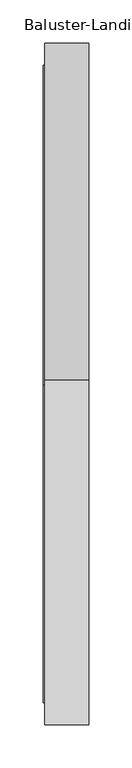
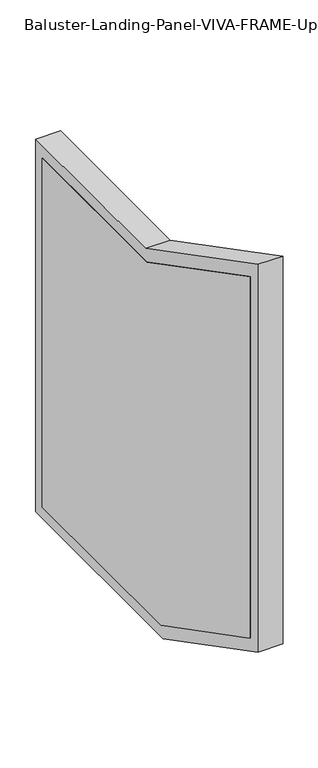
"""IFC4 building model written with IfcOpenShell, lengths in millimetres: railing geometry, Baluster-Landing-Panel-VIVA-FRAME-Upper : Standard_PP01."""

from ifc_helpers import new_model, si_unit, frame, origin, place, context, project, spatial, polyline, outline, extrude, faceted_brep, source, transform, mapped, element, save


def baluster_landing_panel_viva_frame_upper_standard_pp01_6e22e4d4(model_context):
    return source(origin(), model_context, "Body", "SolidModel", [
        extrude(outline(polyline([(-198.3597931, 150.8238514), (-618.4295116, 150.8238514), (-933.9372584, 315.0667886), (-933.9372584, 1093.9289424), (-567.5964726, 903.224), (-198.3597931, 903.224), (-198.3597931, 150.8238514)])), frame((62.2681, 0.0, 0.0), z_axis=(1.0, 0.0, 0.0), x_axis=(0.0, 1.0, 0.0)), (0.0, 0.0, 1.0), 2.9972),
        faceted_brep([(63.7667, -561.3811321, 928.624), (114.5667, -561.3811321, 928.624), (114.5667, -172.9597931, 928.624), (63.7667, -172.9597931, 928.624), (114.5667, -172.9597931, 125.4238514), (63.7667, -172.9597931, 125.4238514), (114.5667, -959.3372584, 1135.7868469), (114.5667, -959.3372584, 299.6536902), (114.5667, -624.6448521, 125.4238514), (114.5667, -953.3428584, 303.2911815), (114.5667, -953.3428584, 1125.9083814), (114.5667, -562.8479524, 922.6296), (114.5667, -178.9541931, 922.6296), (114.5667, -178.9541931, 131.4182514), (114.5667, -623.1780317, 131.4182514), (63.7667, -624.6448521, 125.4238514), (63.7667, -959.3372584, 299.6536902), (63.7667, -959.3372584, 1135.7868469), (63.7667, -223.7597931, 877.824), (63.7667, -573.811813, 877.824), (63.7667, -908.5372584, 1052.0710378), (63.7667, -908.5372584, 330.479887), (63.7667, -612.2141711, 176.2238514), (63.7667, -223.7597931, 176.2238514), (83.7565, -573.811813, 877.824), (83.7565, -223.7597931, 877.824), (83.7565, -223.7597931, 176.2238514), (83.7565, -612.2141711, 176.2238514), (83.7565, -178.9541931, 922.6296), (83.7565, -562.8479524, 922.6296), (83.7565, -953.3428584, 1125.9083814), (83.7565, -953.3428584, 303.2911815), (83.7565, -623.1780317, 131.4182514), (83.7565, -178.9541931, 131.4182514), (83.7565, -908.5372584, 330.479887), (83.7565, -908.5372584, 1052.0710378)], [[[0, 1, 2, 3]], [[3, 2, 4, 5]], [[2, 1, 6, 7, 8, 4], [9, 10, 11, 12, 13, 14]], [[5, 4, 8, 15]], [[16, 17, 0, 3, 5, 15], [18, 19, 20, 21, 22, 23]], [[24, 19, 18, 25]], [[25, 18, 23, 26]], [[26, 23, 22, 27]], [[28, 29, 30, 31, 32, 33], [34, 35, 24, 25, 26, 27]], [[11, 29, 28, 12]], [[12, 28, 33, 13]], [[13, 33, 32, 14]], [[15, 8, 7, 16]], [[27, 22, 21, 34]], [[14, 32, 31, 9]], [[16, 7, 6, 17]], [[34, 21, 20, 35]], [[9, 31, 30, 10]], [[17, 6, 1, 0]], [[35, 20, 19, 24]], [[10, 30, 29, 11]]]),
    ])


if __name__ == "__main__":
    model = new_model("IFC4")
    model_context = context("Model", 3, world=origin())
    ifc_project = project(units=[si_unit("LENGTHUNIT", "METRE", prefix="MILLI")], contexts=[model_context])
    site = spatial("IfcSite", under=ifc_project)
    building = spatial("IfcBuilding", under=site)
    placement = place(None, origin())
    baluster_landing_panel_viva_frame_upper_standard_pp01_shape = baluster_landing_panel_viva_frame_upper_standard_pp01_6e22e4d4(model_context)
    element("IfcRailing", 1, ObjectType="Baluster-Landing-Panel-VIVA-FRAME-Upper : Standard_PP01", at=placement, inside=building, context=model_context, shape_type="MappedRepresentation", body=[
        mapped(baluster_landing_panel_viva_frame_upper_standard_pp01_shape, transform((0.0, 0.0, 0.0), x_axis=(1.0, 0.0, 0.0), y_axis=(0.0, 1.0, 0.0), z_axis=(0.0, 0.0, 1.0))),
    ])
    save(model, "model.ifc")
